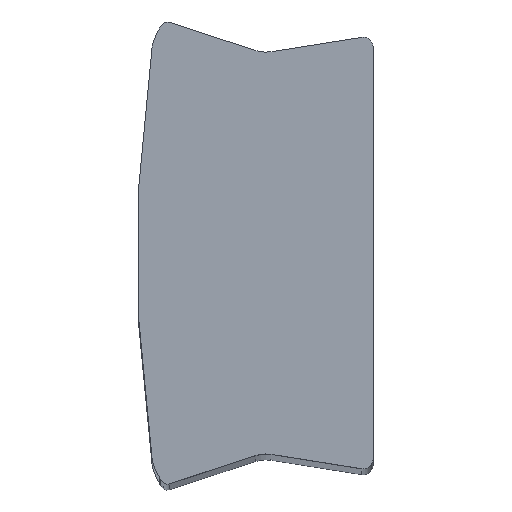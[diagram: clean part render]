
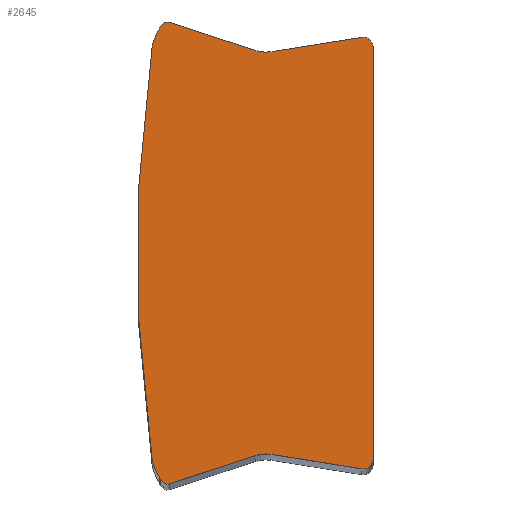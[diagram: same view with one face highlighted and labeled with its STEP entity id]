
A CAD part, top view. The second image highlights one B-rep face of the part: STEP entity #2645.
In plain terms, the highlighted planar face has unit normal (0, 0, 1).
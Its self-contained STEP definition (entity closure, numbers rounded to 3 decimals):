
#240=CIRCLE('',#2927,1.);
#241=CIRCLE('',#2930,0.2);
#242=CIRCLE('',#2932,0.3);
#243=CIRCLE('',#2934,1.468);
#244=CIRCLE('',#2936,44.351);
#245=CIRCLE('',#2938,1.479);
#246=CIRCLE('',#2940,0.2);
#247=CIRCLE('',#2943,1.);
#248=CIRCLE('',#2946,0.3);
#249=CIRCLE('',#2949,0.3);
#465=FACE_OUTER_BOUND('',#618,.T.);
#618=EDGE_LOOP('',(#2363,#2364,#2365,#2366,#2367,#2368,#2369,#2370,#2371,
#2372,#2373,#2374,#2375,#2376,#2377));
#797=LINE('',#4915,#994);
#800=LINE('',#4923,#997);
#808=LINE('',#4951,#1005);
#811=LINE('',#4959,#1008);
#814=LINE('',#4967,#1011);
#994=VECTOR('',#3688,2.833);
#997=VECTOR('',#3697,2.801);
#1005=VECTOR('',#3731,2.801);
#1008=VECTOR('',#3740,2.833);
#1011=VECTOR('',#3749,12.703);
#1232=VERTEX_POINT('',#4912);
#1233=VERTEX_POINT('',#4914);
#1234=VERTEX_POINT('',#4918);
#1235=VERTEX_POINT('',#4922);
#1236=VERTEX_POINT('',#4926);
#1237=VERTEX_POINT('',#4930);
#1238=VERTEX_POINT('',#4934);
#1239=VERTEX_POINT('',#4938);
#1240=VERTEX_POINT('',#4942);
#1241=VERTEX_POINT('',#4946);
#1242=VERTEX_POINT('',#4950);
#1243=VERTEX_POINT('',#4954);
#1244=VERTEX_POINT('',#4958);
#1245=VERTEX_POINT('',#4962);
#1246=VERTEX_POINT('',#4966);
#1595=EDGE_CURVE('',#1233,#1232,#797,.T.);
#1597=EDGE_CURVE('',#1234,#1233,#240,.T.);
#1599=EDGE_CURVE('',#1235,#1234,#800,.T.);
#1601=EDGE_CURVE('',#1236,#1235,#241,.T.);
#1603=EDGE_CURVE('',#1237,#1236,#242,.T.);
#1605=EDGE_CURVE('',#1238,#1237,#243,.T.);
#1607=EDGE_CURVE('',#1239,#1238,#244,.T.);
#1609=EDGE_CURVE('',#1240,#1239,#245,.T.);
#1611=EDGE_CURVE('',#1241,#1240,#246,.T.);
#1613=EDGE_CURVE('',#1242,#1241,#808,.T.);
#1615=EDGE_CURVE('',#1243,#1242,#247,.T.);
#1617=EDGE_CURVE('',#1244,#1243,#811,.T.);
#1619=EDGE_CURVE('',#1245,#1244,#248,.T.);
#1621=EDGE_CURVE('',#1246,#1245,#814,.T.);
#1623=EDGE_CURVE('',#1232,#1246,#249,.T.);
#2363=ORIENTED_EDGE('',*,*,#1623,.T.);
#2364=ORIENTED_EDGE('',*,*,#1621,.T.);
#2365=ORIENTED_EDGE('',*,*,#1619,.T.);
#2366=ORIENTED_EDGE('',*,*,#1617,.T.);
#2367=ORIENTED_EDGE('',*,*,#1615,.T.);
#2368=ORIENTED_EDGE('',*,*,#1613,.T.);
#2369=ORIENTED_EDGE('',*,*,#1611,.T.);
#2370=ORIENTED_EDGE('',*,*,#1609,.T.);
#2371=ORIENTED_EDGE('',*,*,#1607,.T.);
#2372=ORIENTED_EDGE('',*,*,#1605,.T.);
#2373=ORIENTED_EDGE('',*,*,#1603,.T.);
#2374=ORIENTED_EDGE('',*,*,#1601,.T.);
#2375=ORIENTED_EDGE('',*,*,#1599,.T.);
#2376=ORIENTED_EDGE('',*,*,#1597,.T.);
#2377=ORIENTED_EDGE('',*,*,#1595,.T.);
#2431=PLANE('',#2950);
#2645=ADVANCED_FACE('',(#465),#2431,.T.);
#2927=AXIS2_PLACEMENT_3D('',#4919,#3692,#3693);
#2930=AXIS2_PLACEMENT_3D('',#4927,#3701,#3702);
#2932=AXIS2_PLACEMENT_3D('',#4931,#3706,#3707);
#2934=AXIS2_PLACEMENT_3D('',#4935,#3711,#3712);
#2936=AXIS2_PLACEMENT_3D('',#4939,#3716,#3717);
#2938=AXIS2_PLACEMENT_3D('',#4943,#3721,#3722);
#2940=AXIS2_PLACEMENT_3D('',#4947,#3726,#3727);
#2943=AXIS2_PLACEMENT_3D('',#4955,#3735,#3736);
#2946=AXIS2_PLACEMENT_3D('',#4963,#3744,#3745);
#2949=AXIS2_PLACEMENT_3D('',#4970,#3753,#3754);
#2950=AXIS2_PLACEMENT_3D('',#4971,#3755,#3756);
#3688=DIRECTION('',(-0.988,0.156,0.));
#3692=DIRECTION('center_axis',(0.,0.,-1.));
#3693=DIRECTION('ref_axis',(0.156,0.988,0.));
#3697=DIRECTION('',(-0.95,-0.311,0.));
#3701=DIRECTION('center_axis',(0.,0.,1.));
#3702=DIRECTION('ref_axis',(0.657,0.754,0.));
#3706=DIRECTION('center_axis',(0.,0.,1.));
#3707=DIRECTION('ref_axis',(0.92,0.393,0.));
#3711=DIRECTION('center_axis',(0.,0.,1.));
#3712=DIRECTION('ref_axis',(0.99,0.142,0.));
#3716=DIRECTION('center_axis',(0.,0.,1.));
#3717=DIRECTION('ref_axis',(0.99,-0.142,0.));
#3721=DIRECTION('center_axis',(0.,0.,1.));
#3722=DIRECTION('ref_axis',(0.756,-0.654,0.));
#3726=DIRECTION('center_axis',(0.,0.,1.));
#3727=DIRECTION('ref_axis',(-0.311,-0.95,0.));
#3731=DIRECTION('',(0.95,-0.311,0.));
#3735=DIRECTION('center_axis',(0.,0.,-1.));
#3736=DIRECTION('ref_axis',(-0.311,-0.95,0.));
#3740=DIRECTION('',(0.988,0.156,0.));
#3744=DIRECTION('center_axis',(0.,0.,1.));
#3745=DIRECTION('ref_axis',(-1.,0.,0.));
#3749=DIRECTION('',(0.,-1.,0.));
#3753=DIRECTION('center_axis',(0.,0.,1.));
#3754=DIRECTION('ref_axis',(0.156,0.988,0.));
#3755=DIRECTION('center_axis',(0.,0.,1.));
#3756=DIRECTION('ref_axis',(1.,0.,0.));
#4912=CARTESIAN_POINT('',(0.347,6.648,2.));
#4914=CARTESIAN_POINT('',(3.145,6.205,2.));
#4915=CARTESIAN_POINT('',(3.145,6.205,2.));
#4918=CARTESIAN_POINT('',(3.613,6.242,2.));
#4919=CARTESIAN_POINT('Origin',(3.302,7.192,2.));
#4922=CARTESIAN_POINT('',(6.275,7.113,2.));
#4923=CARTESIAN_POINT('',(6.275,7.113,2.));
#4926=CARTESIAN_POINT('',(6.468,7.073,2.));
#4927=CARTESIAN_POINT('Origin',(6.337,6.922,2.));
#4930=CARTESIAN_POINT('',(6.547,6.965,2.));
#4931=CARTESIAN_POINT('Origin',(6.271,6.847,2.));
#4934=CARTESIAN_POINT('',(6.814,6.309,2.));
#4935=CARTESIAN_POINT('Origin',(5.361,6.1,2.));
#4938=CARTESIAN_POINT('',(6.814,-6.316,2.));
#4939=CARTESIAN_POINT('Origin',(-37.086,-0.003,
2.));
#4942=CARTESIAN_POINT('',(6.468,-7.073,2.));
#4943=CARTESIAN_POINT('Origin',(5.35,-6.105,2.));
#4946=CARTESIAN_POINT('',(6.275,-7.113,2.));
#4947=CARTESIAN_POINT('Origin',(6.337,-6.922,2.));
#4950=CARTESIAN_POINT('',(3.613,-6.242,2.));
#4951=CARTESIAN_POINT('',(3.613,-6.242,2.));
#4954=CARTESIAN_POINT('',(3.145,-6.205,2.));
#4955=CARTESIAN_POINT('Origin',(3.302,-7.192,2.));
#4958=CARTESIAN_POINT('',(0.347,-6.648,2.));
#4959=CARTESIAN_POINT('',(0.347,-6.648,2.));
#4962=CARTESIAN_POINT('',(0.,-6.352,2.));
#4963=CARTESIAN_POINT('Origin',(0.3,-6.352,2.));
#4966=CARTESIAN_POINT('',(0.,6.352,2.));
#4967=CARTESIAN_POINT('',(0.,6.352,2.));
#4970=CARTESIAN_POINT('Origin',(0.3,6.352,2.));
#4971=CARTESIAN_POINT('Origin',(3.233,0.,2.));
